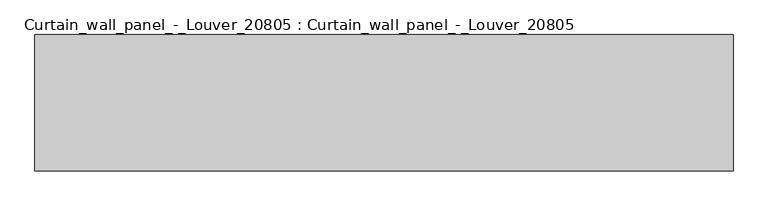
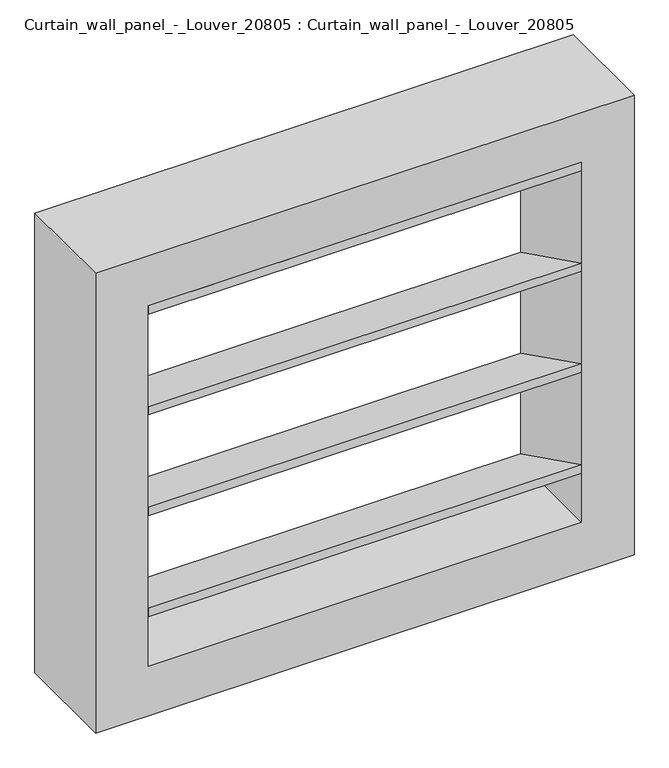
"""IFC4 building model written with IfcOpenShell, lengths in millimetres: plate geometry, Curtain_wall_panel_-_Louver_20805 : Curtain_wall_panel_-_Louver_20805."""

from ifc_helpers import new_model, si_unit, frame, origin, place, context, project, spatial, polyline, outline, extrude, source, transform, mapped, element, save


def curtain_wall_panel_louver_20805_curtain_wall_panel_louver_7a5f8102(model_context):
    return source(origin(), model_context, "Body", "SweptSolid", [
        extrude(outline(polyline([(-200.0, 605.2950441), (-200.0, 622.044977), (0.0, 522.6599789), (0.0, 505.910046), (-200.0, 605.2950441)])), frame((-412.5, 0.0, 0.0), z_axis=(1.0, 0.0, 0.0), x_axis=(0.0, 1.0, 0.0)), (0.0, 0.0, 1.0), 825.0),
        extrude(outline(polyline([(-200.0, 402.3400211), (-200.0, 419.089954), (0.0, 319.7049559), (0.0, 302.955023), (-200.0, 402.3400211)])), frame((-412.5, 0.0, 0.0), z_axis=(1.0, 0.0, 0.0), x_axis=(0.0, 1.0, 0.0)), (0.0, 0.0, 1.0), 825.0),
        extrude(outline(polyline([(-200.0, 808.2500672), (-200.0, 825.0), (0.0, 725.6150019), (0.0, 708.8650691), (-200.0, 808.2500672)])), frame((-412.5, 0.0, 0.0), z_axis=(1.0, 0.0, 0.0), x_axis=(0.0, 1.0, 0.0)), (0.0, 0.0, 1.0), 825.0),
        extrude(outline(polyline([(-200.0, 199.3849981), (-200.0, 216.1349309), (0.0, 116.7499328), (0.0, 100.0), (-200.0, 199.3849981)])), frame((-412.5, 0.0, 0.0), z_axis=(1.0, 0.0, 0.0), x_axis=(0.0, 1.0, 0.0)), (0.0, 0.0, 1.0), 825.0),
        extrude(outline(polyline([(925.0, -512.5), (0.0, -512.5), (0.0, 512.5), (925.0, 512.5), (925.0, -512.5)]), holes=[polyline([(825.0, -412.5), (825.0, 412.5), (100.0, 412.5), (100.0, -412.5), (825.0, -412.5)])]), frame((0.0, -200.0, 0.0), z_axis=(0.0, 1.0, 0.0), x_axis=(0.0, 0.0, 1.0)), (0.0, 0.0, 1.0), 200.0),
    ])


if __name__ == "__main__":
    model = new_model("IFC4")
    model_context = context("Model", 3, world=origin())
    ifc_project = project(units=[si_unit("LENGTHUNIT", "METRE", prefix="MILLI")], contexts=[model_context])
    site = spatial("IfcSite", under=ifc_project)
    building = spatial("IfcBuilding", under=site)
    placement = place(None, origin())
    curtain_wall_panel_louver_20805_curtain_wall_panel_louver_shape = curtain_wall_panel_louver_20805_curtain_wall_panel_louver_7a5f8102(model_context)
    element("IfcPlate", 1, ObjectType="Curtain_wall_panel_-_Louver_20805 : Curtain_wall_panel_-_Louver_20805", at=placement, inside=building, context=model_context, shape_type="MappedRepresentation", body=[
        mapped(curtain_wall_panel_louver_20805_curtain_wall_panel_louver_shape, transform((0.0, 0.0, 0.0), x_axis=(1.0, 0.0, 0.0), y_axis=(0.0, 1.0, 0.0), z_axis=(0.0, 0.0, 1.0))),
    ])
    save(model, "model.ifc")
